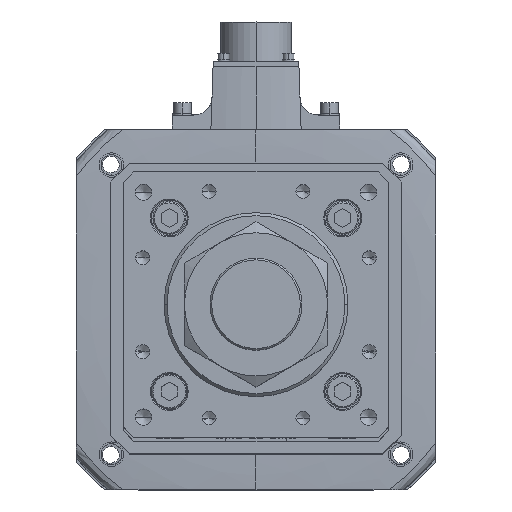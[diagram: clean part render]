
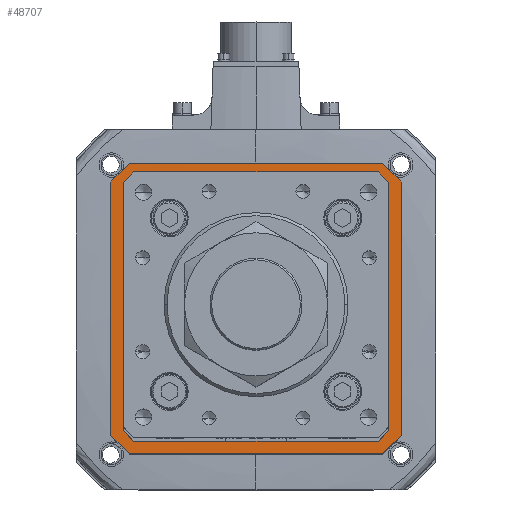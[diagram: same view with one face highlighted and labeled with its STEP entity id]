
A CAD part, top view. The second image highlights one B-rep face of the part: STEP entity #48707.
In plain terms, the highlighted planar face has unit normal (0, 0, 1).
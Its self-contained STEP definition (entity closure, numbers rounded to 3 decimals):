
#122 = DIRECTION ( 'NONE',  ( -1., 0., 0. ) ) ;
#647 = LINE ( 'NONE', #42430, #12607 ) ;
#1004 = EDGE_CURVE ( 'NONE', #14490, #46593, #16628, .T. ) ;
#1438 = ORIENTED_EDGE ( 'NONE', *, *, #43209, .T. ) ;
#1652 = AXIS2_PLACEMENT_3D ( 'NONE', #32899, #11669, #45990 ) ;
#2885 = VERTEX_POINT ( 'NONE', #42442 ) ;
#3059 = VERTEX_POINT ( 'NONE', #10339 ) ;
#3304 = CARTESIAN_POINT ( 'NONE',  ( 71., 62., -142. ) ) ;
#4572 = LINE ( 'NONE', #25979, #52630 ) ;
#4953 = VERTEX_POINT ( 'NONE', #16081 ) ;
#5931 = EDGE_CURVE ( 'NONE', #16855, #48342, #37848, .T. ) ;
#5937 = VECTOR ( 'NONE', #47301, 1000. ) ;
#6126 = LINE ( 'NONE', #17212, #46132 ) ;
#6957 = ORIENTED_EDGE ( 'NONE', *, *, #7768, .F. ) ;
#7210 = EDGE_CURVE ( 'NONE', #40700, #53050, #11858, .T. ) ;
#7349 = ORIENTED_EDGE ( 'NONE', *, *, #1004, .F. ) ;
#7390 = FACE_BOUND ( 'NONE', #31606, .T. ) ;
#7534 = DIRECTION ( 'NONE',  ( 0.707, -0.707, 0. ) ) ;
#7768 = EDGE_CURVE ( 'NONE', #3059, #31760, #52502, .T. ) ;
#8635 = DIRECTION ( 'NONE',  ( 0.707, 0.707, 0. ) ) ;
#9047 = CARTESIAN_POINT ( 'NONE',  ( -58.793, 63., -142. ) ) ;
#9085 = CARTESIAN_POINT ( 'NONE',  ( 62., 71., -142. ) ) ;
#9095 = CARTESIAN_POINT ( 'NONE',  ( 0., 63., -142. ) ) ;
#9933 = LINE ( 'NONE', #24238, #54594 ) ;
#10339 = CARTESIAN_POINT ( 'NONE',  ( -62., -71., -142. ) ) ;
#10625 = ORIENTED_EDGE ( 'NONE', *, *, #32558, .T. ) ;
#10637 = PLANE ( 'NONE',  #1652 ) ;
#10941 = LINE ( 'NONE', #40960, #41620 ) ;
#11201 = DIRECTION ( 'NONE',  ( -0.707, -0.707, 0. ) ) ;
#11669 = DIRECTION ( 'NONE',  ( 0., 0., 1. ) ) ;
#11858 = LINE ( 'NONE', #17025, #28519 ) ;
#11943 = EDGE_CURVE ( 'NONE', #55158, #23494, #50090, .T. ) ;
#12381 = CARTESIAN_POINT ( 'NONE',  ( -63., 58.793, -142. ) ) ;
#12607 = VECTOR ( 'NONE', #46735, 1000. ) ;
#13229 = ORIENTED_EDGE ( 'NONE', *, *, #19641, .F. ) ;
#13497 = CARTESIAN_POINT ( 'NONE',  ( -62., 71., -142. ) ) ;
#14490 = VERTEX_POINT ( 'NONE', #31231 ) ;
#15376 = DIRECTION ( 'NONE',  ( -0.707, 0.707, 0. ) ) ;
#15426 = LINE ( 'NONE', #3304, #42137 ) ;
#15662 = ORIENTED_EDGE ( 'NONE', *, *, #7210, .T. ) ;
#16081 = CARTESIAN_POINT ( 'NONE',  ( 71., 62., -142. ) ) ;
#16628 = LINE ( 'NONE', #21671, #19329 ) ;
#16855 = VERTEX_POINT ( 'NONE', #53953 ) ;
#17025 = CARTESIAN_POINT ( 'NONE',  ( -63., 0., -142. ) ) ;
#17212 = CARTESIAN_POINT ( 'NONE',  ( 71., 62., -142. ) ) ;
#17995 = EDGE_CURVE ( 'NONE', #29303, #40700, #32784, .T. ) ;
#19329 = VECTOR ( 'NONE', #8635, 1000. ) ;
#19484 = ORIENTED_EDGE ( 'NONE', *, *, #40525, .T. ) ;
#19641 = EDGE_CURVE ( 'NONE', #46593, #36728, #647, .T. ) ;
#20433 = CARTESIAN_POINT ( 'NONE',  ( 71., -62., -142. ) ) ;
#21671 = CARTESIAN_POINT ( 'NONE',  ( -62., 71., -142. ) ) ;
#21804 = VECTOR ( 'NONE', #36494, 1000. ) ;
#22290 = ORIENTED_EDGE ( 'NONE', *, *, #47843, .F. ) ;
#22872 = ORIENTED_EDGE ( 'NONE', *, *, #23391, .F. ) ;
#23039 = ORIENTED_EDGE ( 'NONE', *, *, #17995, .T. ) ;
#23048 = LINE ( 'NONE', #45892, #25010 ) ;
#23391 = EDGE_CURVE ( 'NONE', #31760, #14490, #23048, .T. ) ;
#23494 = VERTEX_POINT ( 'NONE', #41558 ) ;
#24081 = ORIENTED_EDGE ( 'NONE', *, *, #30338, .T. ) ;
#24238 = CARTESIAN_POINT ( 'NONE',  ( 60.896, -60.896, -142. ) ) ;
#24244 = DIRECTION ( 'NONE',  ( 0., 1., 0. ) ) ;
#24820 = CARTESIAN_POINT ( 'NONE',  ( 62., -71., -142. ) ) ;
#24899 = CARTESIAN_POINT ( 'NONE',  ( 63., 58.793, -142. ) ) ;
#25010 = VECTOR ( 'NONE', #24244, 1000. ) ;
#25092 = LINE ( 'NONE', #44920, #21804 ) ;
#25582 = DIRECTION ( 'NONE',  ( 0., 1., 0. ) ) ;
#25906 = CARTESIAN_POINT ( 'NONE',  ( -62., -71., -142. ) ) ;
#25979 = CARTESIAN_POINT ( 'NONE',  ( 62., -71., -142. ) ) ;
#26144 = LINE ( 'NONE', #34170, #44169 ) ;
#27444 = CARTESIAN_POINT ( 'NONE',  ( -63., -58.793, -142. ) ) ;
#27999 = VERTEX_POINT ( 'NONE', #43765 ) ;
#28055 = CARTESIAN_POINT ( 'NONE',  ( -60.896, -60.896, -142. ) ) ;
#28067 = VECTOR ( 'NONE', #15376, 1000. ) ;
#28519 = VECTOR ( 'NONE', #25582, 1000. ) ;
#29303 = VERTEX_POINT ( 'NONE', #50499 ) ;
#30338 = EDGE_CURVE ( 'NONE', #23494, #45686, #45258, .T. ) ;
#30418 = CARTESIAN_POINT ( 'NONE',  ( -71., -62., -142. ) ) ;
#31066 = EDGE_CURVE ( 'NONE', #45686, #2885, #25092, .T. ) ;
#31231 = CARTESIAN_POINT ( 'NONE',  ( -71., 62., -142. ) ) ;
#31606 = EDGE_LOOP ( 'NONE', ( #45425, #1438, #19484, #23039, #15662, #10625, #39646, #24081 ) ) ;
#31760 = VERTEX_POINT ( 'NONE', #30418 ) ;
#32558 = EDGE_CURVE ( 'NONE', #53050, #55158, #10941, .T. ) ;
#32784 = LINE ( 'NONE', #28055, #28067 ) ;
#32899 = CARTESIAN_POINT ( 'NONE',  ( 0., 0., -142. ) ) ;
#33401 = ORIENTED_EDGE ( 'NONE', *, *, #48074, .F. ) ;
#34170 = CARTESIAN_POINT ( 'NONE',  ( 0., -63., -142. ) ) ;
#35840 = VECTOR ( 'NONE', #7534, 1000. ) ;
#35910 = EDGE_LOOP ( 'NONE', ( #13229, #7349, #22872, #6957, #36815, #52673, #22290, #33401 ) ) ;
#36494 = DIRECTION ( 'NONE',  ( 0., -1., 0. ) ) ;
#36728 = VERTEX_POINT ( 'NONE', #9085 ) ;
#36815 = ORIENTED_EDGE ( 'NONE', *, *, #55080, .F. ) ;
#37463 = CARTESIAN_POINT ( 'NONE',  ( 60.896, 60.896, -142. ) ) ;
#37848 = LINE ( 'NONE', #20433, #5937 ) ;
#39297 = DIRECTION ( 'NONE',  ( -0.707, 0.707, 0. ) ) ;
#39646 = ORIENTED_EDGE ( 'NONE', *, *, #11943, .T. ) ;
#40525 = EDGE_CURVE ( 'NONE', #27999, #29303, #26144, .T. ) ;
#40700 = VERTEX_POINT ( 'NONE', #27444 ) ;
#40960 = CARTESIAN_POINT ( 'NONE',  ( -60.896, 60.896, -142. ) ) ;
#41558 = CARTESIAN_POINT ( 'NONE',  ( 58.793, 63., -142. ) ) ;
#41620 = VECTOR ( 'NONE', #54045, 1000. ) ;
#41998 = VECTOR ( 'NONE', #48821, 1000. ) ;
#42137 = VECTOR ( 'NONE', #46353, 1000. ) ;
#42430 = CARTESIAN_POINT ( 'NONE',  ( 62., 71., -142. ) ) ;
#42442 = CARTESIAN_POINT ( 'NONE',  ( 63., -58.793, -142. ) ) ;
#42459 = VECTOR ( 'NONE', #39297, 1000. ) ;
#43209 = EDGE_CURVE ( 'NONE', #2885, #27999, #9933, .T. ) ;
#43765 = CARTESIAN_POINT ( 'NONE',  ( 58.793, -63., -142. ) ) ;
#44169 = VECTOR ( 'NONE', #44258, 1000. ) ;
#44258 = DIRECTION ( 'NONE',  ( -1., 0., 0. ) ) ;
#44920 = CARTESIAN_POINT ( 'NONE',  ( 63., 0., -142. ) ) ;
#45258 = LINE ( 'NONE', #37463, #35840 ) ;
#45425 = ORIENTED_EDGE ( 'NONE', *, *, #31066, .T. ) ;
#45440 = FACE_OUTER_BOUND ( 'NONE', #35910, .T. ) ;
#45686 = VERTEX_POINT ( 'NONE', #24899 ) ;
#45892 = CARTESIAN_POINT ( 'NONE',  ( -71., 62., -142. ) ) ;
#45990 = DIRECTION ( 'NONE',  ( 1., 0., 0. ) ) ;
#46132 = VECTOR ( 'NONE', #47255, 1000. ) ;
#46353 = DIRECTION ( 'NONE',  ( 0., -1., 0. ) ) ;
#46593 = VERTEX_POINT ( 'NONE', #13497 ) ;
#46735 = DIRECTION ( 'NONE',  ( 1., 0., 0. ) ) ;
#47255 = DIRECTION ( 'NONE',  ( 0.707, -0.707, 0. ) ) ;
#47301 = DIRECTION ( 'NONE',  ( -0.707, -0.707, 0. ) ) ;
#47843 = EDGE_CURVE ( 'NONE', #4953, #16855, #15426, .T. ) ;
#48074 = EDGE_CURVE ( 'NONE', #36728, #4953, #6126, .T. ) ;
#48342 = VERTEX_POINT ( 'NONE', #24820 ) ;
#48707 = ADVANCED_FACE ( 'NONE', ( #7390, #45440 ), #10637, .T. ) ;
#48821 = DIRECTION ( 'NONE',  ( 1., 0., 0. ) ) ;
#50090 = LINE ( 'NONE', #9095, #41998 ) ;
#50499 = CARTESIAN_POINT ( 'NONE',  ( -58.793, -63., -142. ) ) ;
#52502 = LINE ( 'NONE', #25906, #42459 ) ;
#52630 = VECTOR ( 'NONE', #122, 1000. ) ;
#52673 = ORIENTED_EDGE ( 'NONE', *, *, #5931, .F. ) ;
#53050 = VERTEX_POINT ( 'NONE', #12381 ) ;
#53953 = CARTESIAN_POINT ( 'NONE',  ( 71., -62., -142. ) ) ;
#54045 = DIRECTION ( 'NONE',  ( 0.707, 0.707, 0. ) ) ;
#54594 = VECTOR ( 'NONE', #11201, 1000. ) ;
#55080 = EDGE_CURVE ( 'NONE', #48342, #3059, #4572, .T. ) ;
#55158 = VERTEX_POINT ( 'NONE', #9047 ) ;
